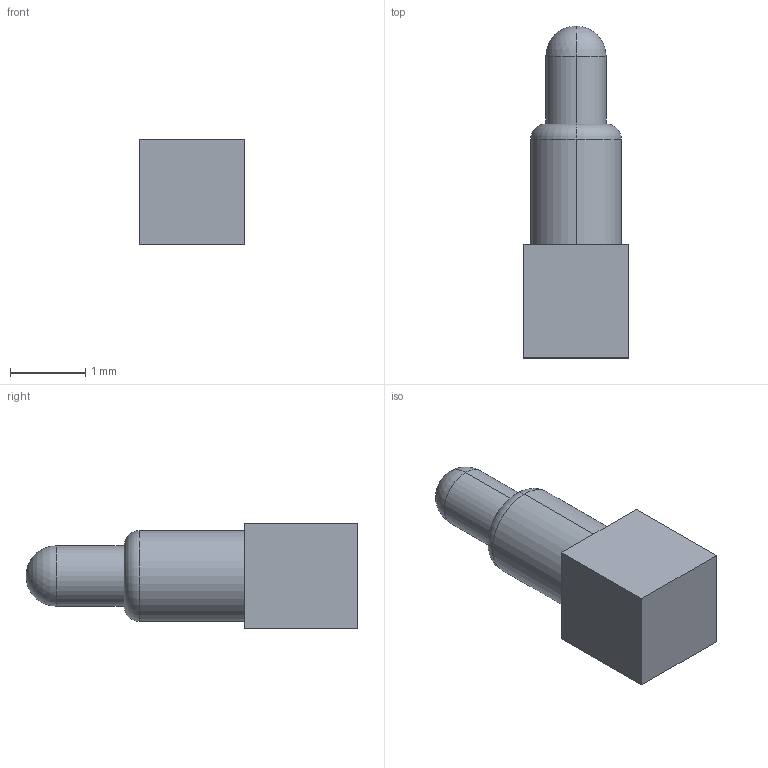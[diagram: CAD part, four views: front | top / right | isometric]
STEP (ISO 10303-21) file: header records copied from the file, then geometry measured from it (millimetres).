
FILE_DESCRIPTION((''),'2;1');
FILE_NAME('PRT0004','2023-06-01T14:20:56',('USER'),(''),'CREO PARAMETRIC BY PTC INC, 2020154','CREO PARAMETRIC BY PTC INC, 2020154','');
FILE_SCHEMA(('CONFIG_CONTROL_DESIGN'));
Length unit declared in the file: millimetre
Products named in the file (1): PRT0004
Bounding box: 1.4 x 4.4 x 1.4 mm (x, y, z)
Volume: 5.3 mm3; surface area: 20.8 mm2
Topology: 1 solids, 1 shells, 14 faces, 30 edges, 17 vertices
Faces by surface type: plane 6, cylinder 4, torus 2, sphere 2
Entity records: 402 total; most frequent: DIRECTION 68, CARTESIAN_POINT 59, ORIENTED_EDGE 56, EDGE_CURVE 28, AXIS2_PLACEMENT_3D 26, VERTEX_POINT 17, VECTOR 16, LINE 16
